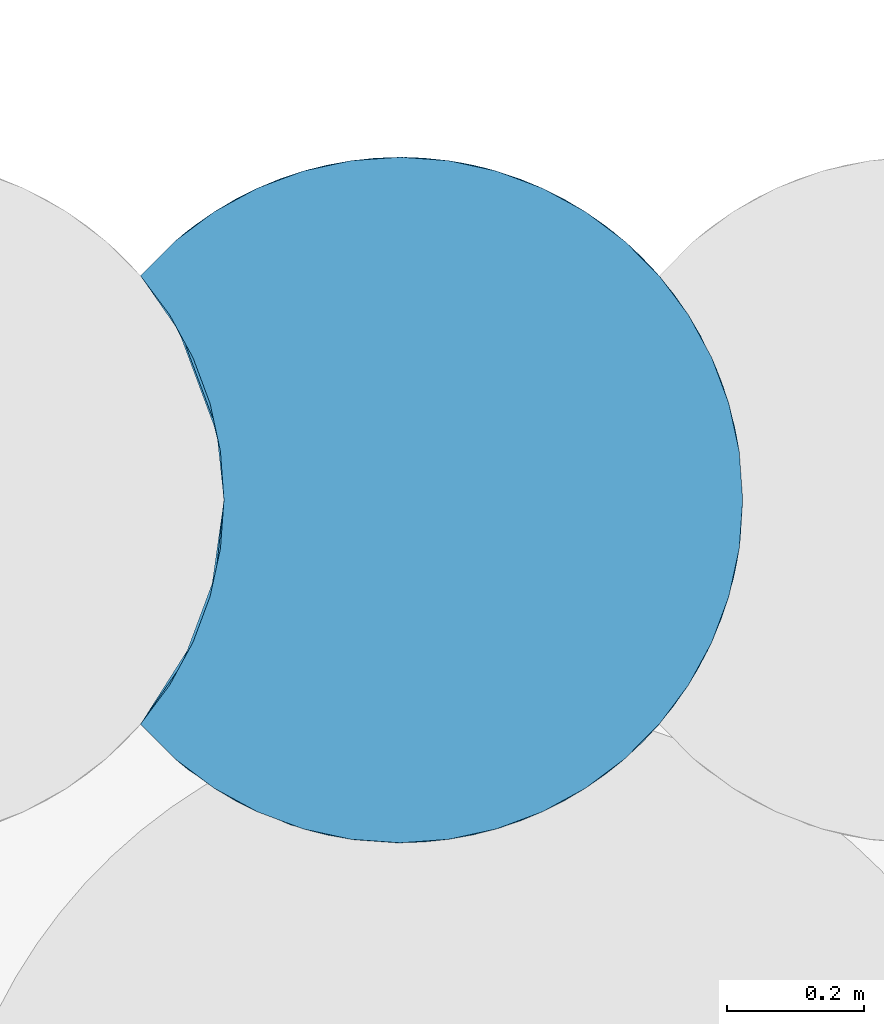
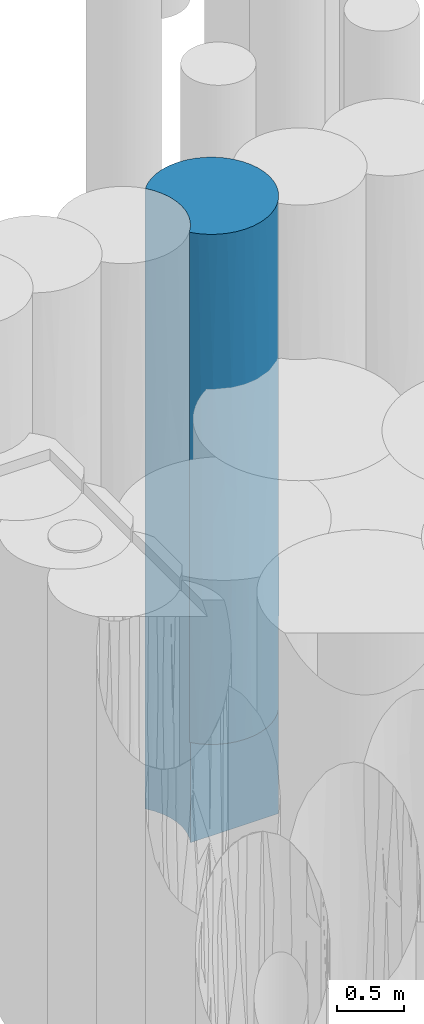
# One storey, part 29 of 104: 1 pile.
"""IFC2X3 building model written with IfcOpenShell, lengths in millimetres."""

import ifcopenshell
import ifcopenshell.guid

model = None  # the IFC model being written
_history = None  # IfcOwnerHistory: only IFC2X3 demands one
_inside = {}  # id of a spatial element -> (the spatial element, [elements in it])
_under = {}  # id of a project, library or spatial element -> (it, [spatial elements below it])
_declared = {}  # id of a project -> (the project, [libraries it declares])
_typed = {}  # id of a type object -> (the type object, [elements of that type])
_made_of = {}  # id of a material, layer set ... -> (it, [elements and type objects made of it])


def new_model(schema):
    """Start an empty IFC model of exactly this schema.

    Asked for "IFC4X3", IfcOpenShell would pick the latest addendum, in which some entities
    have other attributes; the version numbers below select the first issue.
    IFC2X3 requires an IfcOwnerHistory on every rooted entity: one is made here for all.
    """
    global model, _history
    if schema == "IFC4X3":
        model = ifcopenshell.file(schema_version=(4, 3, 0, 0))
    else:
        model = ifcopenshell.file(schema=schema)
    _inside.clear()
    _under.clear()
    _declared.clear()
    _typed.clear()
    _made_of.clear()
    _history = None
    if model.schema == "IFC2X3":
        org = make("IfcOrganization", Name="unknown")
        user = make(
            "IfcPersonAndOrganization",
            ThePerson=make("IfcPerson", FamilyName="unknown"),
            TheOrganization=org,
        )
        app = make(
            "IfcApplication",
            ApplicationDeveloper=org,
            Version="unknown",
            ApplicationFullName="unknown",
            ApplicationIdentifier="unknown",
        )
        _history = make(
            "IfcOwnerHistory",
            OwningUser=user,
            OwningApplication=app,
            ChangeAction="ADDED",
            CreationDate=0,
        )
    return model


def make(cls, **values):
    """One entity of the class cls with the attributes given. An attribute that is None is left unset."""
    return model.create_entity(
        cls, **{name: value for name, value in values.items() if value is not None}
    )


def entity(cls, *values):
    """Any entity or typed value of the class cls, its attributes in the order of the schema. None: left unset."""
    e = model.create_entity(cls)
    for i, value in enumerate(values):
        if value is not None:
            e[i] = value
    return e


def rooted(cls, **values):
    """An entity with a GlobalId (a new one), such as an element, a storey or a relation."""
    return make(cls, GlobalId=ifcopenshell.guid.new(), OwnerHistory=_history, **values)


def si_unit(unit_type, name, prefix=None):
    """IfcSIUnit, for example si_unit("LENGTHUNIT", "METRE", prefix="MILLI")."""
    return make("IfcSIUnit", UnitType=unit_type, Prefix=prefix, Name=name)


def converted_unit(unit_type, name, factor, base, dimensions=None, offset=None):
    """IfcConversionBasedUnit, such as the inch: factor (a typed value) times the base unit."""
    return make(
        "IfcConversionBasedUnit"
        if offset is None
        else "IfcConversionBasedUnitWithOffset",
        ConversionOffset=offset,
        Dimensions=None
        if dimensions is None
        else entity("IfcDimensionalExponents", *dimensions),
        UnitType=unit_type,
        Name=name,
        ConversionFactor=make(
            "IfcMeasureWithUnit", ValueComponent=factor, UnitComponent=base
        ),
    )


def derived_unit(unit_type, elements):
    """IfcDerivedUnit: a product of units, each with its exponent."""
    return make(
        "IfcDerivedUnit",
        Elements=[
            make("IfcDerivedUnitElement", Unit=unit, Exponent=power)
            for unit, power in elements
        ],
        UnitType=unit_type,
    )


def assignment(units):
    """IfcUnitAssignment: the units of a project."""
    return None if units is None else make("IfcUnitAssignment", Units=units)


def point(xyz):
    """IfcCartesianPoint."""
    return None if xyz is None else make("IfcCartesianPoint", Coordinates=xyz)


def direction(xyz):
    """IfcDirection."""
    return None if xyz is None else make("IfcDirection", DirectionRatios=xyz)


def frame(location, z_axis=None, x_axis=None):
    """IfcAxis2Placement3D, a coordinate frame: its origin and axes. An axis left out is left unset."""
    return make(
        "IfcAxis2Placement3D",
        Location=point(location),
        Axis=direction(z_axis),
        RefDirection=direction(x_axis),
    )


def origin():
    """The frame at (0, 0, 0) with its axes left unset."""
    return frame((0.0, 0.0, 0.0))


def place(relative_to, where):
    """IfcLocalPlacement: puts the frame where relative to a parent placement (None: the world)."""
    return make(
        "IfcLocalPlacement", PlacementRelTo=relative_to, RelativePlacement=where
    )


def context(
    kind, dimensions, precision=None, world=None, true_north=None, identifier=None
):
    """IfcGeometricRepresentationContext, for example the 3D "Model" context."""
    return make(
        "IfcGeometricRepresentationContext",
        ContextIdentifier=identifier,
        ContextType=kind,
        CoordinateSpaceDimension=dimensions,
        Precision=precision,
        WorldCoordinateSystem=world,
        TrueNorth=true_north,
    )


def subcontext(parent, identifier, kind, view, scale=None):
    """IfcGeometricRepresentationSubContext, for example "Body" below "Model"."""
    return make(
        "IfcGeometricRepresentationSubContext",
        ContextIdentifier=identifier,
        ContextType=kind,
        ParentContext=parent,
        TargetScale=scale,
        TargetView=view,
    )


def project(units=None, contexts=None):
    """IfcProject with its units and contexts."""
    return rooted(
        "IfcProject",
        Name="project",
        RepresentationContexts=contexts,
        UnitsInContext=assignment(units),
    )


def spatial(cls, under=None, at=None, **own):
    """A site, building, storey or space (cls), placed at a placement, below another one or the project."""
    s = rooted(cls, ObjectPlacement=at, **own)
    if under is not None:
        _under.setdefault(under.id(), (under, []))[1].append(s)
    return s


def faces_of(points, faces, orient=None, outer=None):
    """IfcFace entities. A face is a list of loops; a loop is a list of indices into points, from 0.

    orient and outer hold one flag for each loop. By default every Orientation is true, the
    first loop of a face is its IfcFaceOuterBound and the others are IfcFaceBound.
    """
    made = []
    for i, loops in enumerate(faces):
        bounds = []
        for j, loop in enumerate(loops):
            is_outer = j == 0 if outer is None else outer[i][j]
            bounds.append(
                make(
                    "IfcFaceOuterBound" if is_outer else "IfcFaceBound",
                    Bound=make("IfcPolyLoop", Polygon=[points[k] for k in loop]),
                    Orientation=True if orient is None else orient[i][j],
                )
            )
        made.append(make("IfcFace", Bounds=bounds))
    return made


def faceted_brep(points, faces, orient=None, outer=None, voids=None):
    """IfcFacetedBrep: a solid bounded by flat faces; with voids (closed shells), ...WithVoids."""
    shared = [point(p) for p in points]
    hull = make("IfcClosedShell", CfsFaces=faces_of(shared, faces, orient, outer))
    if voids is None:
        return make("IfcFacetedBrep", Outer=hull)
    return make(
        "IfcFacetedBrepWithVoids",
        Outer=hull,
        Voids=[
            make(cls, CfsFaces=faces_of(shared, fs, o, b)) for cls, fs, o, b in voids
        ],
    )


def shape(context_of_items, identifier, shape_type, items):
    """IfcShapeRepresentation: the items that make up one representation, for example the "Body"."""
    return make(
        "IfcShapeRepresentation",
        ContextOfItems=context_of_items,
        RepresentationIdentifier=identifier,
        RepresentationType=shape_type,
        Items=items,
    )


def source(mapping_origin, context_of_items, identifier, shape_type, items):
    """IfcRepresentationMap: a shape defined once, which mapped items show again and again."""
    return make(
        "IfcRepresentationMap",
        MappingOrigin=mapping_origin,
        MappedRepresentation=shape(context_of_items, identifier, shape_type, items),
    )


def transform(
    local_origin,
    x_axis=None,
    y_axis=None,
    z_axis=None,
    scale=None,
    scale2=None,
    scale3=None,
    uniform=True,
):
    """IfcCartesianTransformationOperator3D, or its non-uniform kind. x_axis, y_axis, z_axis: its Axis1, 2, 3."""
    if uniform:
        return make(
            "IfcCartesianTransformationOperator3D",
            Axis1=direction(x_axis),
            Axis2=direction(y_axis),
            LocalOrigin=point(local_origin),
            Scale=scale,
            Axis3=direction(z_axis),
        )
    return make(
        "IfcCartesianTransformationOperator3DnonUniform",
        Axis1=direction(x_axis),
        Axis2=direction(y_axis),
        LocalOrigin=point(local_origin),
        Scale=scale,
        Axis3=direction(z_axis),
        Scale2=scale2,
        Scale3=scale3,
    )


def mapped(mapping_source, mapping_target):
    """IfcMappedItem: shows the shape of a source again, moved by a transform."""
    return make(
        "IfcMappedItem", MappingSource=mapping_source, MappingTarget=mapping_target
    )


def material(Name=None, Category=None):
    """IfcMaterial."""
    return make("IfcMaterial", Name=Name, Category=Category)


def made_of(thing, what):
    """Note that an element or type object is made of a material, layer set ...; save() writes the relation."""
    if what is not None:
        _made_of.setdefault(what.id(), (what, []))[1].append(thing)
    return thing


def element(
    cls,
    number,
    at=None,
    inside=None,
    cuts=None,
    type_object=None,
    material=None,
    context=None,
    identifier="Body",
    shape_type=None,
    held_by="IfcProductDefinitionShape",
    body=None,
    shapes=None,
    **own,
):
    """One element of the class cls, such as IfcWall. Its Tag is "e" and its number.

    at: its placement. inside: the storey or other place that contains it. cuts: it is an
    opening in that element (IfcRelVoidsElement). A single representation is given by context,
    identifier, shape_type and body (its items); several are given by shapes. held_by: the class
    of the entity that holds the representations. save() writes the other relations.
    """
    e = rooted(cls, Tag="e%d" % number, ObjectPlacement=at, **own)
    if body is not None:
        shapes = [shape(context, identifier, shape_type, body)]
    if shapes is not None:
        e.Representation = make(held_by, Representations=shapes)
    if inside is not None:
        _inside.setdefault(inside.id(), (inside, []))[1].append(e)
    if cuts is not None:
        rooted(
            "IfcRelVoidsElement", RelatingBuildingElement=cuts, RelatedOpeningElement=e
        )
    if type_object is not None:
        _typed.setdefault(type_object.id(), (type_object, []))[1].append(e)
    return made_of(e, material)


def aggregate(whole, parts):
    """IfcRelAggregates: a whole, such as a stair, and the parts it consists of."""
    return rooted("IfcRelAggregates", RelatingObject=whole, RelatedObjects=parts)


def save(model, path):
    """Write the relations noted so far, then the file.

    IfcRelAggregates (storeys below a building ...), IfcRelContainedInSpatialStructure (elements
    in a storey), IfcRelDefinesByType, IfcRelAssociatesMaterial and IfcRelDeclares: one each for
    every whole, place, type object, material and project.
    """
    for whole, parts in _under.values():
        aggregate(whole, parts)
    for where, things in _inside.values():
        rooted(
            "IfcRelContainedInSpatialStructure",
            RelatedElements=things,
            RelatingStructure=where,
        )
    for kind, things in _typed.values():
        rooted("IfcRelDefinesByType", RelatedObjects=things, RelatingType=kind)
    for what, things in _made_of.values():
        rooted("IfcRelAssociatesMaterial", RelatedObjects=things, RelatingMaterial=what)
    for by, libraries in _declared.values():
        rooted("IfcRelDeclares", RelatingContext=by, RelatedDefinitions=libraries)
    model.write(path)


model = new_model("IFC2X3")

# Units and contexts
model_context = context("Model", 3, precision=0.01, world=origin(), true_north=direction((6.12303176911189e-17, 1.0)))
body_context = subcontext(model_context, "Body", "Model", "MODEL_VIEW")
ifc_project = project(units=[si_unit("LENGTHUNIT", "METRE", prefix="MILLI"), si_unit("AREAUNIT", "SQUARE_METRE", prefix="MILLI"), si_unit("VOLUMEUNIT", "CUBIC_METRE"), converted_unit("PLANEANGLEUNIT", "DEGREE", entity("IfcRatioMeasure", 0.0174532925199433), si_unit("PLANEANGLEUNIT", "RADIAN"), dimensions=[0, 0, 0, 0, 0, 0, 0]), si_unit("MASSUNIT", "GRAM", prefix="KILO"), derived_unit("MASSDENSITYUNIT", [(si_unit("MASSUNIT", "GRAM", prefix="KILO"), 1), (si_unit("LENGTHUNIT", "METRE"), -3)]), derived_unit("MOMENTOFINERTIAUNIT", [(si_unit("LENGTHUNIT", "METRE"), 4)]), si_unit("TIMEUNIT", "SECOND"), si_unit("FREQUENCYUNIT", "HERTZ"), si_unit("THERMODYNAMICTEMPERATUREUNIT", "DEGREE_CELSIUS"), derived_unit("THERMALTRANSMITTANCEUNIT", [(si_unit("MASSUNIT", "GRAM", prefix="KILO"), 1), (si_unit("THERMODYNAMICTEMPERATUREUNIT", "KELVIN"), -1), (si_unit("TIMEUNIT", "SECOND"), -3)]), derived_unit("VOLUMETRICFLOWRATEUNIT", [(si_unit("LENGTHUNIT", "METRE"), 3), (si_unit("TIMEUNIT", "SECOND"), -1)]), si_unit("ELECTRICCURRENTUNIT", "AMPERE"), si_unit("ELECTRICVOLTAGEUNIT", "VOLT"), si_unit("POWERUNIT", "WATT"), si_unit("FORCEUNIT", "NEWTON", prefix="KILO"), si_unit("ILLUMINANCEUNIT", "LUX"), si_unit("LUMINOUSFLUXUNIT", "LUMEN"), si_unit("LUMINOUSINTENSITYUNIT", "CANDELA"), derived_unit("USERDEFINED", [(si_unit("MASSUNIT", "GRAM", prefix="KILO"), -1), (si_unit("LENGTHUNIT", "METRE"), -2), (si_unit("TIMEUNIT", "SECOND"), 3), (si_unit("LUMINOUSFLUXUNIT", "LUMEN"), 1)]), derived_unit("LINEARVELOCITYUNIT", [(si_unit("LENGTHUNIT", "METRE"), 1), (si_unit("TIMEUNIT", "SECOND"), -1)]), si_unit("PRESSUREUNIT", "PASCAL"), derived_unit("USERDEFINED", [(si_unit("LENGTHUNIT", "METRE"), -2), (si_unit("MASSUNIT", "GRAM", prefix="KILO"), 1), (si_unit("TIMEUNIT", "SECOND"), -2)]), derived_unit("LINEARFORCEUNIT", [(si_unit("MASSUNIT", "GRAM", prefix="KILO"), 1), (si_unit("LENGTHUNIT", "METRE"), 1), (si_unit("TIMEUNIT", "SECOND"), -2), (si_unit("LENGTHUNIT", "METRE"), -1)]), derived_unit("PLANARFORCEUNIT", [(si_unit("MASSUNIT", "GRAM", prefix="KILO"), 1), (si_unit("LENGTHUNIT", "METRE"), 1), (si_unit("TIMEUNIT", "SECOND"), -2), (si_unit("LENGTHUNIT", "METRE"), -2)])], contexts=[model_context])

# Site, building, storey
site_placement = place(None, origin())
site = spatial("IfcSite", under=ifc_project, at=site_placement, Name="Theater aan de Parade", CompositionType="ELEMENT")
building_placement = place(site_placement, origin())
building = spatial("IfcBuilding", under=site, at=building_placement, Name="Theater aan de Parade", CompositionType="ELEMENT")
storey_placement = place(building_placement, frame((0.0, 0.0, -5520.0)))
storey = spatial("IfcBuildingStorey", under=building, at=storey_placement, Name="-2 kelder", CompositionType="ELEMENT", Elevation=-5520.0)

# Pile
ifc_material = material(Name="00_PBT_MAT_grout")
shared_shape = source(origin(), body_context, "Body", "Brep", [
    faceted_brep([(379.87989414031, 1001.59527223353, 0.0), (451.135842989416, 996.491974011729, 0.0), (520.937017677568, 981.286001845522, 0.0), (587.858902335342, 956.287680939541, 0.0), (650.535674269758, 922.007022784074, 0.0), (707.688019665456, 879.143347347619, 0.0), (758.137916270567, 828.577274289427, 0.0), (800.764509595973, 771.515742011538, 0.0), (834.842988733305, 708.98277557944, 0.0), (859.692501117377, 642.239896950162, 0.0), (874.807578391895, 572.642219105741, 0.0), (879.880986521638, 501.595272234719, 0.0), (876.637177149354, 444.733271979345, 0.0), (866.96351374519, 388.676665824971, 0.0), (850.978622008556, 334.063132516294, 0.0), (828.879872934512, 281.595272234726, 0.0), (72.3084443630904, 281.595272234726, 0.0), (94.4019982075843, 334.048524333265, 0.0), (110.389831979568, 388.666946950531, 0.0), (120.066807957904, 444.742527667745, 0.0), (123.309557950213, 501.595272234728, 0.0), (118.238136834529, 572.628375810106, 0.0), (103.126750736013, 642.220524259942, 0.0), (78.2819444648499, 708.959993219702, 0.0), (44.2077119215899, 771.492926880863, 0.0), (1.59527223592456, 828.550801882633, 0.0), (52.0619478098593, 879.132923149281, 0.0), (109.216398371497, 922.000648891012, 0.0), (171.896165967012, 956.284522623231, 0.0), (238.820552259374, 981.284707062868, 0.0), (308.623372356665, 996.491576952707, 0.0), (868.237975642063, 608.868060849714, 3274.7733182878), (879.880986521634, 501.595272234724, 2496.92455001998), (872.469147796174, 587.367665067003, 2029.23110971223), (874.807578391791, 572.642219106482, 5620.0), (872.790677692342, 585.500196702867, 4448.84672051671), (859.69250108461, 642.239897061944, 5620.0), (840.848710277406, 695.267050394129, 838.572364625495), (780.477533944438, 800.798223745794, 941.938246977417), (717.902638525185, 870.026219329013, 853.985396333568), (464.773906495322, 994.335763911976, 4766.24524743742), (554.84499069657, 969.9835697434, 4677.89128729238), (486.308348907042, 990.13720138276, 3926.99183942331), (780.477533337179, 800.798224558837, 4359.72037239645), (758.157091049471, 828.561919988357, 5620.0), (800.764509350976, 771.515742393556, 5620.0), (469.372625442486, 993.521330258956, 2771.91834266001), (619.810314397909, 940.268177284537, 2810.0), (486.30834891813, 990.137201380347, 1616.84484595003), (503.444214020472, 986.086891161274, 807.926128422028), (72.226388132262, 895.738200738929, 1468.5420170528), (1.59527223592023, 828.550801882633, 1561.53797879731), (273.450019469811, 990.136416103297, 1369.22367124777), (619.810315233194, 940.268176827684, 1308.96625276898), (879.880986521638, 501.595272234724, 4839.23113750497), (744.845895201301, 843.356322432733, 3309.55466343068), (679.878371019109, 901.59723384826, 4157.39703894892), (79.8725308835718, 901.588930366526, 4644.8034266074), (52.0619478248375, 879.132923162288, 5620.0), (109.21639835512, 922.000648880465, 5620.0), (879.880986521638, 501.595272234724, 1561.53772498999), (586.541682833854, 956.887877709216, 3739.26694369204), (389.039049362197, 1001.51139508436, 1793.992714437), (868.490803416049, 607.710524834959, 929.942290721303), (451.135842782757, 996.491974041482, 5620.0), (379.879894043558, 1001.59527223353, 5620.0), (415.599127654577, 1000.31785483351, 908.53061427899), (848.457590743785, 676.054338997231, 4359.70948984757), (834.842988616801, 708.982775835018, 5620.0), (818.918499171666, 740.85676618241, 3234.26713947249), (1.59527223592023, 828.550801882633, 3123.07595759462), (61.9110545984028, 887.464579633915, 3590.76885422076), (68.1882758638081, 892.552628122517, 2590.58974056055), (344.160365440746, 1000.31767721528, 4295.47011353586), (308.62337232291, 996.491576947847, 5620.0), (650.535673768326, 922.007023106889, 5620.0), (707.688019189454, 879.143347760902, 5620.0), (171.89616594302, 956.284522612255, 5620.0), (238.820552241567, 981.284707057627, 5620.0), (204.911275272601, 969.981437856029, 4644.8057657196), (800.902375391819, 771.300648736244, 1891.90438181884), (848.457591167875, 676.054337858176, 1666.8684301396), (1.59527223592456, 828.550801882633, 5620.0), (139.943160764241, 940.263529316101, 960.82507494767), (879.880986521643, 501.595272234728, 4058.46227500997), (879.880986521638, 501.595272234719, 2810.0), (139.943160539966, 940.263529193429, 1976.25895999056), (249.52579601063, 984.303801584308, 3618.97619833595), (139.943160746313, 940.263529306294, 3852.81729588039), (733.827266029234, 854.755336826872, 1693.03978298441), (1.59527223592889, 828.550801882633, 4058.46202120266), (587.858901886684, 956.287681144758, 5620.0), (520.937017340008, 981.286001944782, 5620.0), (691.049980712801, 892.969590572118, 2404.07247122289), (879.880986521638, 501.595272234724, 5620.0), (148.84113916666, 945.01447449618, 2914.53812772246), (395.600625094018, 1001.34810410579, 3455.0516692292), (236.822647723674, 980.692664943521, 2354.51428914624), (344.160364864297, 1000.317677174, 2614.63322816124), (760.031027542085, 826.38127302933, 2475.87045222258), (852.90126574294, 663.619392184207, 2551.21472388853), (109.218127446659, 81.1887823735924, 1000.0), (171.900334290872, 46.9041151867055, 1000.0), (139.946073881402, 62.9254217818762, 1960.83076234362), (868.249817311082, 394.376406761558, 1095.51766968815), (52.0616515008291, 124.057878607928, 1000.0), (72.2277471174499, 107.451282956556, 2468.55227379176), (219.851591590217, 27.8964303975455, 3377.23961249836), (273.457935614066, 13.0524038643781, 2397.70917771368), (313.934714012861, 5.9632624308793, 3256.16165222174), (238.827254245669, 21.9038666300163, 1000.0), (308.632495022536, 6.69765407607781, 1000.0), (868.576941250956, 395.877422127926, 3250.85384075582), (872.224581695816, 414.430002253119, 4638.91679328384), (379.891107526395, 1.59527233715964, 1000.0), (451.148623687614, 6.70041078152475, 1000.0), (415.611160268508, 2.87355154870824, 2131.63816377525), (619.810315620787, 62.9223678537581, 4675.44822935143), (520.937017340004, 21.9045425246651, 5620.0), (486.308349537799, 13.0533432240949, 4394.9584207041), (139.943161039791, 62.9270150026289, 4329.65432444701), (171.896165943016, 46.9060218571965, 5620.0), (109.21639835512, 81.1898955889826, 5620.0), (415.611160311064, 2.87355155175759, 3309.99156499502), (374.929221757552, 1.61979281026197, 4574.50689499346), (139.946073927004, 62.9254217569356, 2976.27378498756), (554.858770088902, 33.2121221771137, 2398.16872201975), (520.950689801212, 21.9085632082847, 1000.0), (587.87269395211, 46.909172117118, 1000.0), (865.283747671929, 381.661292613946, 2185.7688528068), (650.548786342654, 81.191963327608, 1000.0), (679.890799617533, 101.602632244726, 2277.93081230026), (753.904323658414, 169.772212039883, 1973.194055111), (778.382906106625, 199.608153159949, 3310.00863151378), (702.650683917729, 119.731785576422, 3256.91390852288), (1.5952722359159, 174.639742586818, 2561.53770750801), (1.5952722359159, 174.639742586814, 3342.30656126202), (1.59527223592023, 174.639742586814, 4123.07541501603), (71.0484315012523, 108.374656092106, 3732.69098814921), (61.1388618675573, 116.363578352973, 4662.75544674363), (834.030131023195, 292.433720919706, 3150.31987590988), (848.457591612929, 327.136207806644, 4098.49681985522), (828.879872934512, 281.595272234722, 1000.0), (523.466913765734, 22.6557337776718, 3362.2214021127), (273.450019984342, 13.0541282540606, 4114.58137139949), (238.820552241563, 21.9058374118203, 5620.0), (308.62337232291, 6.69896752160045, 5620.0), (1.5952722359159, 174.639742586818, 1000.0), (451.135842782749, 6.69857042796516, 5620.0), (379.879894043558, 1.5952722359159, 5620.0), (619.810315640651, 62.9223678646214, 3675.40494369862), (707.69970369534, 124.05734212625, 1000.0), (813.813841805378, 253.195841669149, 2211.63549262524), (796.953909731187, 225.823307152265, 1000.0), (800.764509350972, 231.674802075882, 5620.0), (800.620012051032, 231.449621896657, 4238.53718624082), (834.842988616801, 294.207768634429, 5620.0), (758.166700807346, 174.639742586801, 1000.0), (733.827266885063, 148.43520850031, 4404.10424705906), (758.157091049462, 174.628624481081, 5620.0), (587.85890188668, 46.9028633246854, 5620.0), (859.692501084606, 360.950647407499, 5620.0), (1.59527223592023, 174.639742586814, 5620.0), (650.535673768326, 81.1835213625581, 5620.0), (707.688019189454, 124.047196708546, 5620.0), (874.807578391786, 430.548325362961, 5620.0), (52.0619478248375, 124.057621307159, 5620.0), (118.238136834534, 572.628375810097, 5620.0), (123.309557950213, 501.595272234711, 5620.0), (118.238136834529, 430.562168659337, 5620.0), (103.126750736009, 360.970020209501, 5620.0), (78.2819444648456, 294.230551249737, 5620.0), (44.2077119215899, 231.697617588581, 5620.0), (44.2077119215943, 771.492926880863, 5620.0), (78.2819444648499, 708.959993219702, 5620.0), (103.126750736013, 642.220524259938, 5620.0), (57.6972719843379, 749.198410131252, 1466.5777030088), (91.8940522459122, 676.033145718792, 959.607558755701), (91.8940518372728, 676.033146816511, 1973.54784366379), (51.0253182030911, 760.553238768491, 3590.76885486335), (55.2465190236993, 753.449320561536, 2591.96489924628), (114.790868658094, 593.498053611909, 2591.96487227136), (113.865321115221, 598.316744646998, 1466.57769835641), (123.309557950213, 501.595272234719, 1561.53772533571), (116.242558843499, 585.363145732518, 3590.76885123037), (123.309557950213, 501.595272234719, 3123.07545067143), (123.309557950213, 501.595272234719, 4058.46227466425), (91.8940514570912, 676.033147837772, 3856.2082679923), (111.923000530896, 607.693828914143, 4646.91290735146), (62.3595462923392, 740.833872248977, 4646.91290345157), (123.309557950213, 501.595272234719, 2810.0), (62.3595469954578, 262.356673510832, 4717.37896061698), (111.564927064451, 393.860901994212, 1098.76555933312), (72.3084443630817, 281.595272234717, 1000.0), (103.748191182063, 363.108017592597, 2185.76885279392), (59.5557267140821, 257.28137529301, 2036.35430148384), (80.3363404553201, 298.798526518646, 3013.88536214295), (40.3944701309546, 225.841439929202, 1000.0), (52.9290067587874, 245.807998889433, 3897.62512214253), (111.923000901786, 395.496717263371, 4717.37896068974), (91.8940525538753, 327.157399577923, 4015.2108533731), (113.298293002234, 402.041068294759, 3273.65625530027)], [[[0, 1, 2, 3, 4, 5, 6, 7, 8, 9, 10, 11, 12, 13, 14, 15, 16, 17, 18, 19, 20, 21, 22, 23, 24, 25, 26, 27, 28, 29, 30]], [[31, 32, 33]], [[34, 35, 36]], [[37, 7, 38]], [[6, 5, 39]], [[7, 6, 38]], [[40, 41, 42]], [[43, 44, 45]], [[46, 47, 48]], [[2, 49, 3]], [[50, 26, 51]], [[30, 29, 52]], [[53, 39, 4]], [[38, 6, 39]], [[35, 34, 54]], [[55, 47, 56]], [[53, 4, 3]], [[57, 58, 59]], [[60, 33, 32]], [[41, 61, 42]], [[48, 62, 46]], [[63, 10, 9]], [[64, 40, 65]], [[66, 62, 48]], [[36, 67, 68]], [[53, 3, 49]], [[67, 43, 68]], [[69, 67, 31]], [[70, 71, 72]], [[68, 43, 45]], [[73, 74, 65]], [[75, 76, 56]], [[77, 78, 79]], [[41, 75, 56]], [[37, 80, 81]], [[30, 52, 66]], [[82, 58, 57]], [[48, 49, 66]], [[55, 43, 69]], [[52, 29, 83]], [[31, 84, 85, 32]], [[86, 83, 50]], [[79, 87, 88]], [[63, 9, 37]], [[37, 9, 8]], [[39, 89, 38]], [[51, 26, 25]], [[83, 28, 27]], [[47, 53, 48]], [[11, 10, 63]], [[90, 71, 70]], [[67, 69, 43]], [[91, 41, 92]], [[93, 53, 47]], [[41, 40, 92]], [[40, 64, 92]], [[34, 94, 54]], [[56, 43, 55]], [[66, 49, 1]], [[79, 88, 57]], [[72, 95, 86]], [[42, 96, 73]], [[97, 52, 86]], [[79, 74, 73]], [[83, 29, 28]], [[59, 77, 79]], [[43, 76, 44]], [[72, 51, 70]], [[1, 0, 66]], [[76, 43, 56]], [[79, 57, 59]], [[83, 27, 26]], [[52, 83, 86]], [[74, 79, 78]], [[87, 79, 73]], [[71, 57, 88]], [[82, 57, 90]], [[75, 41, 91]], [[61, 56, 47]], [[80, 38, 89]], [[37, 81, 63]], [[33, 63, 81]], [[11, 63, 60]], [[30, 66, 0]], [[62, 52, 98]], [[96, 87, 73]], [[95, 97, 86]], [[99, 80, 89]], [[100, 80, 69]], [[56, 61, 41]], [[46, 61, 47]], [[63, 33, 60]], [[33, 100, 31]], [[33, 81, 100]], [[67, 35, 31]], [[57, 71, 90]], [[95, 72, 71]], [[95, 71, 88]], [[72, 86, 50]], [[80, 100, 81]], [[69, 31, 100]], [[52, 62, 66]], [[46, 62, 98]], [[88, 87, 95]], [[97, 87, 98]], [[87, 97, 95]], [[52, 97, 98]], [[99, 69, 80]], [[99, 93, 55]], [[26, 50, 83]], [[72, 50, 51]], [[42, 73, 40]], [[65, 40, 73]], [[4, 39, 5]], [[53, 89, 39]], [[7, 37, 8]], [[80, 37, 38]], [[53, 49, 48]], [[1, 49, 2]], [[93, 99, 89]], [[69, 99, 55]], [[53, 93, 89]], [[55, 93, 47]], [[96, 46, 98]], [[46, 42, 61]], [[46, 96, 42]], [[87, 96, 98]], [[35, 54, 84]], [[31, 35, 84]], [[35, 67, 36]], [[101, 102, 103]], [[11, 60, 104]], [[105, 103, 106]], [[107, 108, 109]], [[108, 110, 111]], [[112, 84, 113]], [[114, 115, 116]], [[117, 118, 119]], [[120, 121, 122]], [[123, 119, 124]], [[103, 110, 108]], [[108, 111, 116]], [[108, 125, 103]], [[126, 127, 128]], [[129, 104, 60]], [[130, 131, 128]], [[132, 133, 134]], [[127, 126, 116]], [[135, 106, 136]], [[137, 138, 139]], [[140, 112, 141]], [[142, 14, 104]], [[138, 106, 125]], [[141, 112, 113]], [[143, 116, 126]], [[120, 144, 145]], [[145, 144, 146]], [[146, 144, 124]], [[109, 123, 124]], [[147, 105, 135]], [[148, 149, 124]], [[116, 111, 114]], [[148, 119, 118]], [[150, 143, 126]], [[131, 130, 151]], [[112, 129, 85]], [[152, 132, 153]], [[154, 155, 156]], [[132, 157, 153]], [[158, 155, 159]], [[129, 112, 140]], [[152, 153, 142]], [[129, 60, 32, 85]], [[116, 123, 109]], [[13, 104, 14]], [[117, 160, 118]], [[106, 103, 125]], [[12, 11, 104]], [[14, 142, 15]], [[103, 102, 110]], [[103, 105, 101]], [[161, 156, 141]], [[126, 128, 131]], [[162, 137, 139]], [[117, 163, 160]], [[126, 131, 150]], [[151, 157, 132]], [[107, 120, 125]], [[158, 164, 117]], [[133, 155, 158]], [[117, 164, 163]], [[158, 159, 164]], [[155, 154, 159]], [[94, 165, 113]], [[119, 150, 117]], [[143, 119, 123]], [[120, 145, 121]], [[134, 158, 150]], [[113, 161, 141]], [[150, 131, 134]], [[116, 115, 127]], [[148, 124, 119]], [[158, 117, 150]], [[122, 166, 139]], [[142, 129, 152]], [[138, 120, 139]], [[105, 106, 135]], [[138, 137, 136]], [[106, 138, 136]], [[125, 120, 138]], [[122, 139, 120]], [[162, 139, 166]], [[142, 104, 129]], [[12, 104, 13]], [[84, 112, 85]], [[155, 140, 141]], [[133, 152, 140]], [[129, 140, 152]], [[113, 84, 54, 94]], [[161, 113, 165]], [[119, 143, 150]], [[116, 143, 123]], [[107, 109, 144]], [[116, 109, 108]], [[120, 107, 144]], [[108, 107, 125]], [[133, 132, 152]], [[151, 132, 131]], [[132, 134, 131]], [[158, 134, 133]], [[140, 155, 133]], [[155, 141, 156]], [[146, 124, 149]], [[124, 144, 109]], [[167, 168, 169, 170, 171, 172, 162, 166, 122, 121, 145, 146, 149, 148, 118, 160, 163, 164, 159, 154, 156, 161, 165, 94, 34, 36, 68, 45, 44, 76, 75, 91, 92, 64, 65, 74, 78, 77, 59, 58, 82, 173, 174, 175]], [[176, 177, 178]], [[179, 70, 180]], [[181, 182, 183]], [[24, 51, 25]], [[184, 185, 186]], [[21, 182, 177]], [[187, 188, 189]], [[22, 21, 177]], [[23, 22, 177]], [[70, 51, 180]], [[188, 167, 175]], [[188, 186, 168]], [[90, 70, 179]], [[174, 173, 189]], [[24, 23, 177]], [[175, 174, 188]], [[174, 189, 188]], [[187, 181, 184]], [[189, 173, 82]], [[51, 24, 176]], [[178, 177, 182]], [[183, 21, 20]], [[167, 188, 168]], [[186, 188, 184]], [[187, 189, 179]], [[90, 189, 82]], [[185, 184, 181]], [[187, 184, 188]], [[181, 183, 190, 185]], [[180, 178, 181]], [[90, 179, 189]], [[180, 181, 187]], [[179, 180, 187]], [[176, 178, 180]], [[177, 176, 24]], [[51, 176, 180]], [[178, 182, 181]], [[183, 182, 21]], [[172, 171, 191]], [[192, 17, 193]], [[194, 195, 196]], [[147, 195, 197]], [[192, 193, 194]], [[198, 135, 136, 137]], [[193, 197, 195]], [[168, 199, 169]], [[191, 137, 162]], [[198, 191, 200]], [[17, 16, 193]], [[196, 198, 200]], [[183, 194, 190]], [[172, 191, 162]], [[186, 199, 168]], [[199, 191, 171, 170]], [[18, 17, 192]], [[20, 19, 192]], [[186, 201, 199]], [[200, 191, 199]], [[169, 199, 170]], [[200, 199, 201]], [[137, 191, 198]], [[201, 196, 200]], [[192, 183, 20]], [[201, 190, 194]], [[196, 135, 198]], [[193, 195, 194]], [[195, 135, 196]], [[147, 135, 195]], [[196, 201, 194]], [[201, 186, 185, 190]], [[18, 192, 19]], [[183, 192, 194]], [[102, 101, 105, 147, 197, 193, 142, 153, 157, 151, 130, 128, 127, 115, 114, 111, 110]], [[142, 193, 16, 15]]]),
])
pile_placement = place(storey_placement, frame((36643.6914292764, 26760.7721311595, -3840.0)))
element("IfcPile", 1, at=pile_placement, inside=storey, material=ifc_material, Name="17_PBT_SFO_grondkering_rond:Ø1000 (grondkering)", ObjectType="17_PBT_SFO_grondkering_rond:Ø1000 (grondkering)", PredefinedType="NOTDEFINED", context=body_context, shape_type="MappedRepresentation", body=[
    mapped(shared_shape, transform((0.0, 0.0, 0.0), scale=1.0)),
])

save(model, "model.ifc")
